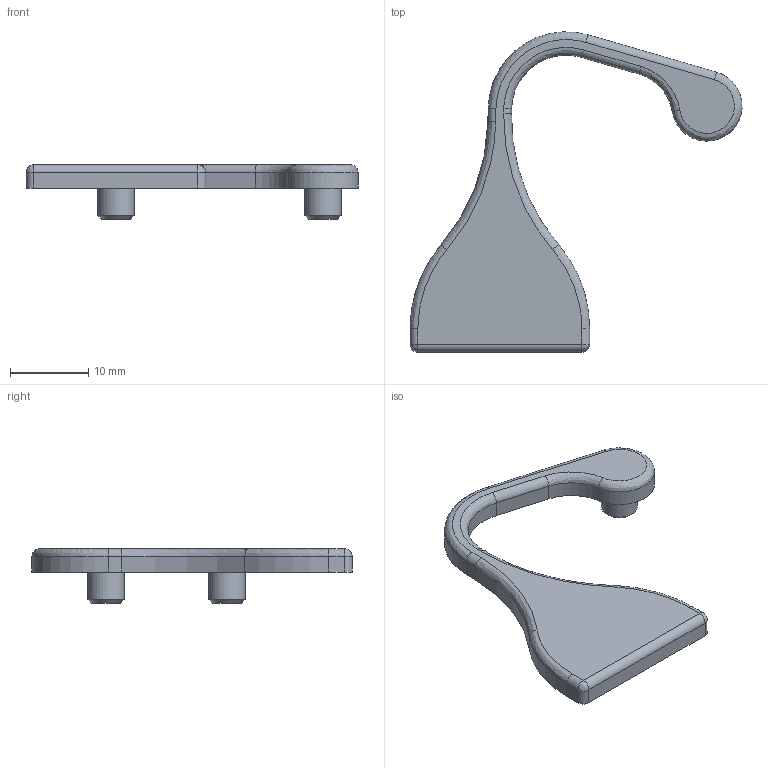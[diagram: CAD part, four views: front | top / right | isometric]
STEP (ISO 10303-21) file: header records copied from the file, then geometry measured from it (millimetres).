
FILE_DESCRIPTION (( 'STEP AP214' ), '1' );
FILE_NAME ('L21124.step', '2024-12-03T16:25:21', ( '' ), ( '' ), 'SwSTEP 2.0', 'SolidWorks 2023', '' );
FILE_SCHEMA (( 'AUTOMOTIVE_DESIGN' ));
Length unit declared in the file: millimetre
Products named in the file (1): L21124
Bounding box: 42.49 x 40.99 x 7 mm (x, y, z)
Volume: 1719.1 mm3; surface area: 1742.6 mm2
Topology: 1 solids, 1 shells, 46 faces, 104 edges, 62 vertices
Faces by surface type: cylinder 21, plane 13, bspline 10, cone 2
Full cylindrical faces by diameter (mm): 3 x2, 4.65 x2
Entity records: 1366 total; most frequent: CARTESIAN_POINT 390, DIRECTION 206, ORIENTED_EDGE 188, EDGE_CURVE 94, AXIS2_PLACEMENT_3D 84, VERTEX_POINT 60, EDGE_LOOP 56, FACE_OUTER_BOUND 50
